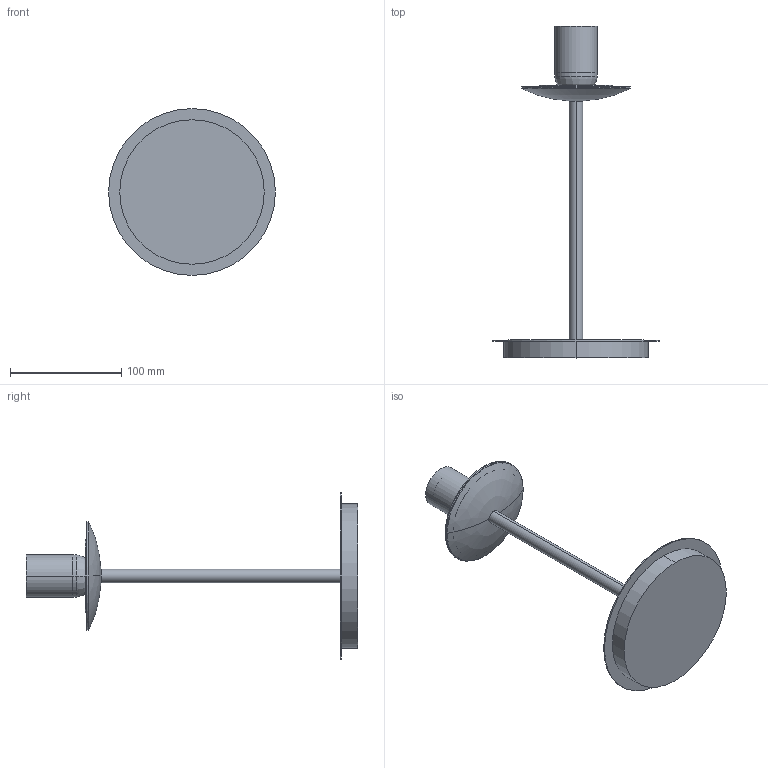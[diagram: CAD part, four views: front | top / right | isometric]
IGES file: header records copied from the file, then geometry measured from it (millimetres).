
Start section: SolidWorks IGES file using analytic representation for surfaces
Global section: file name: \\192.168.111.232\grupos\DISENYO\DESARROLLO DE PRODUCTO\PARMA-3946\PARMA MESA - PIE\PARMA MESA - PIE SIN TULIPA.IGS; native system: SolidWorks 2025; preprocessor: SolidWorks 2025; author: o.domenech; date: 260121.125507; units: millimetre
Bounding box: 150 x 298.45 x 150 mm (x, y, z)
Volume: 309477.9 mm3; surface area: 81610 mm2
Topology: 3 solids, 3 shells, 70 faces, 501 edges, 595 vertices
Faces by surface type: revolution 51, plane 15, bspline 4
